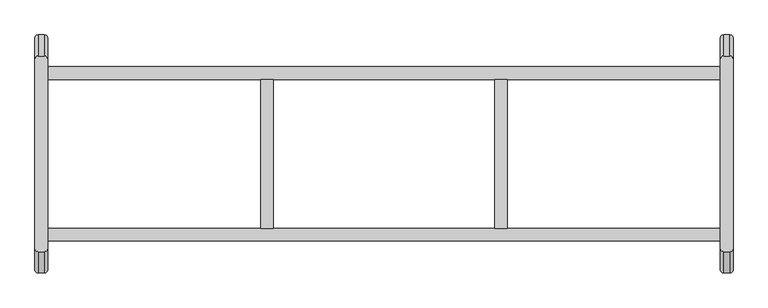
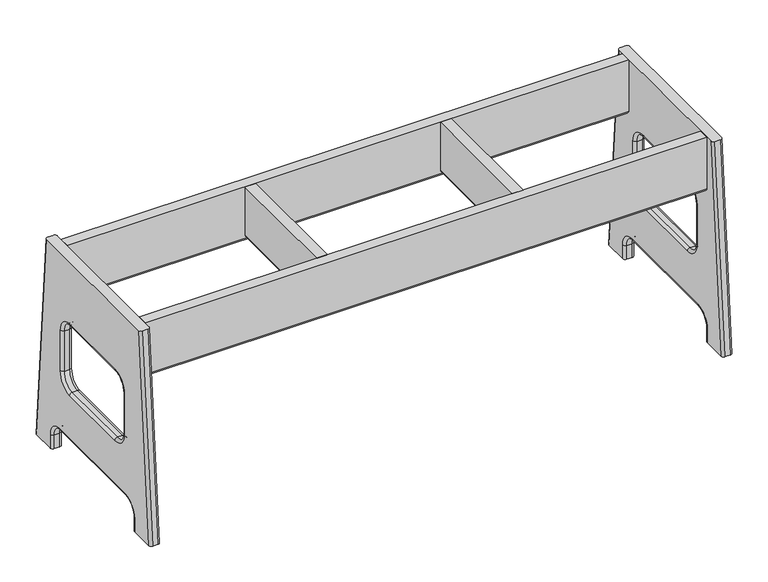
"""IFC4 building model written with IfcOpenShell, lengths in millimetres: furniture geometry, SSL-Childcraft_Outdoor-Bench : 2161359."""

from ifc_helpers import new_model, si_unit, point, frame, frame_2d, origin, place, context, project, spatial, polyline, circle_curve, ellipse_curve, trimmed, segment, composite_curve, outline, extrude, source, transform, mapped, element, save
from ifc_brep_helpers import plane_surface, cylinder_surface, revolved_surface, extruded_surface, advanced_brep


def furniture_ed4c9207(model_context):
    return source(origin(), model_context, "Body", "SolidModel", [
        advanced_brep(
        [(12.7652904, -293.6836882, 387.35), (17.5277904, -298.4461882, 387.35), (27.0527904, -298.4461882, 387.35), (31.8152904, -293.6836882, 387.35), (31.8152904, -11.1163118, 387.35), (27.0527904, -6.3538118, 387.35), (17.5277904, -6.3538118, 387.35), (12.7652904, -11.1163118, 387.35), (12.7652904, -325.4375, 0.0), (12.7652904, 20.6375, 0.0), (12.7652904, -21.4179199, 0.0), (12.7652904, -21.4179199, 25.4), (12.7652904, -50.7866699, 54.76875), (12.7652904, -254.0006417, 54.76875), (12.7652904, -283.3820917, 25.3873), (12.7652904, -283.3820917, 0.0), (12.7652904, -222.25, 270.6686466), (12.7652904, -251.61875, 241.2998966), (12.7652904, -251.61875, 165.0998966), (12.7652904, -222.25, 135.7311466), (12.7652904, -82.55, 135.7311466), (12.7652904, -53.18125, 165.0998966), (12.7652904, -53.18125, 241.2998966), (12.7652904, -82.55, 270.6686466), (17.5277904, -330.2, 0.0), (27.0527904, -330.2, 0.0), (31.8152904, -325.4375, 0.0), (27.0527904, -246.85625, 241.2998966), (27.0527904, -222.25, 265.9061466), (31.8152904, -222.25, 270.6686466), (31.8152904, -251.61875, 241.2998966), (17.5277904, -246.85625, 241.2998966), (17.5277904, -222.25, 265.9061466), (31.8152904, -251.61875, 165.0998966), (27.0527904, -246.85625, 165.0998966), (17.5277904, -246.85625, 165.0998966), (31.8152904, -222.25, 135.7311466), (27.0527904, -222.25, 140.4936466), (17.5277904, -222.25, 140.4936466), (31.8152904, -82.55, 135.7311466), (27.0527904, -82.55, 140.4936466), (17.5277904, -82.55, 140.4936466), (31.8152904, -53.18125, 165.0998966), (27.0527904, -57.94375, 165.0998966), (17.5277904, -57.94375, 165.0998966), (31.8152904, -53.18125, 241.2998966), (27.0527904, -57.94375, 241.2998966), (17.5277904, -57.94375, 241.2998966), (31.8152904, -82.55, 270.6686466), (27.0527904, -82.55, 265.9061466), (17.5277904, -82.55, 265.9061466), (27.0527904, -26.1804199, 0.0), (31.8152904, -21.4179199, 0.0), (31.8152904, -21.4179199, 25.4), (27.0527904, -26.1804199, 25.4), (17.5277904, -26.1804199, 0.0), (17.5277904, -26.1804199, 25.4), (31.8152904, -50.7866699, 54.76875), (27.0527904, -50.7866699, 50.00625), (17.5277904, -50.7866699, 50.00625), (31.8152904, -254.0006417, 54.76875), (27.0527904, -254.0006417, 50.00625), (17.5277904, -254.0006417, 50.00625), (31.8152904, -283.3820917, 25.3873), (27.0527904, -278.6195917, 25.3873), (17.5277904, -278.6195917, 25.3873), (31.8152904, -283.3820917, 0.0), (27.0527904, -278.6195917, 0.0), (17.5277904, -278.6195917, 0.0), (17.5277904, 25.4, 0.0), (27.0527904, 25.4, 0.0), (31.8152904, 20.6375, 0.0)],
        [
            (0, 1, circle_curve(frame((17.5277904, -293.6836882, 387.35), z_axis=(0.0, 0.0, 1.0), x_axis=(1.0, 0.0, 0.0)), 4.7625)),
            (1, 2),
            (2, 3, circle_curve(frame((27.0527904, -293.6836882, 387.35), z_axis=(0.0, 0.0, 1.0), x_axis=(1.0, 0.0, 0.0)), 4.7625)),
            (3, 4),
            (4, 5, circle_curve(frame((27.0527904, -11.1163118, 387.35), z_axis=(0.0, 0.0, 1.0), x_axis=(1.0, 0.0, 0.0)), 4.7625)),
            (5, 6),
            (6, 7, circle_curve(frame((17.5277904, -11.1163118, 387.35), z_axis=(0.0, 0.0, 1.0), x_axis=(1.0, 0.0, 0.0)), 4.7625)),
            (7, 0),
            (8, 0),
            (7, 9),
            (9, 10),
            (10, 11),
            (11, 12, circle_curve(frame((12.7652904, -50.7866699, 25.4), z_axis=(1.0, 0.0, 0.0), x_axis=(0.0, 1.0, 0.0)), 29.36875)),
            (12, 13),
            (13, 14, circle_curve(frame((12.7652904, -254.0006417, 25.3873), z_axis=(1.0, 0.0, 0.0), x_axis=(0.0, 0.0, 1.0)), 29.38145)),
            (14, 15),
            (15, 8),
            (16, 17, circle_curve(frame((12.7652904, -222.25, 241.2998966), z_axis=(1.0, 0.0, 0.0), x_axis=(0.0, 0.0, 1.0)), 29.36875)),
            (17, 18),
            (18, 19, circle_curve(frame((12.7652904, -222.25, 165.0998966), z_axis=(1.0, 0.0, 0.0), x_axis=(0.0, -1.0, 0.0)), 29.36875)),
            (19, 20),
            (20, 21, circle_curve(frame((12.7652904, -82.55, 165.0998966), z_axis=(1.0, 0.0, 0.0), x_axis=(0.0, 0.0, -1.0)), 29.36875)),
            (21, 22),
            (22, 23, circle_curve(frame((12.7652904, -82.55, 241.2998966), z_axis=(1.0, 0.0, 0.0), x_axis=(0.0, 1.0, 0.0)), 29.36875)),
            (23, 16),
            (8, 24, circle_curve(frame((17.5277904, -325.4375, 0.0), z_axis=(0.0, 0.0, 1.0), x_axis=(1.0, 0.0, 0.0)), 4.7625)),
            (24, 1),
            (24, 25),
            (25, 2),
            (25, 26, circle_curve(frame((27.0527904, -325.4375, 0.0), z_axis=(0.0, 0.0, 1.0), x_axis=(1.0, 0.0, 0.0)), 4.7625)),
            (26, 3),
            (27, 28, circle_curve(frame((27.0527904, -222.25, 241.2998966), z_axis=(-1.0, 0.0, 0.0), x_axis=(0.0, 0.0, 1.0)), 24.60625)),
            (28, 29, circle_curve(frame((27.0527904, -222.25, 270.6686466), z_axis=(0.0, -1.0, 0.0), x_axis=(0.0, 0.0, -1.0)), 4.7625)),
            (29, 30, circle_curve(frame((31.8152904, -222.25, 241.2998966), z_axis=(1.0, 0.0, 0.0), x_axis=(0.0, 0.0, 1.0)), 29.36875)),
            (30, 27, circle_curve(frame((27.0527904, -251.61875, 241.2998966), z_axis=(0.0, 0.0, 1.0), x_axis=(0.0, 1.0, 0.0)), 4.7625)),
            (27, 31),
            (31, 32, circle_curve(frame((17.5277904, -222.25, 241.2998966), z_axis=(-1.0, 0.0, 0.0), x_axis=(0.0, 0.0, 1.0)), 24.60625)),
            (32, 28),
            (31, 17, circle_curve(frame((17.5277904, -251.61875, 241.2998966), z_axis=(0.0, 0.0, 1.0), x_axis=(0.0, 1.0, 0.0)), 4.7625)),
            (16, 32, circle_curve(frame((17.5277904, -222.25, 270.6686466), z_axis=(0.0, -1.0, 0.0), x_axis=(0.0, 0.0, -1.0)), 4.7625)),
            (30, 33),
            (33, 34, circle_curve(frame((27.0527904, -251.61875, 165.0998966), z_axis=(0.0, 0.0, 1.0), x_axis=(0.0, 1.0, 0.0)), 4.7625)),
            (34, 27),
            (34, 35),
            (35, 31),
            (35, 18, circle_curve(frame((17.5277904, -251.61875, 165.0998966), z_axis=(0.0, 0.0, 1.0), x_axis=(0.0, 1.0, 0.0)), 4.7625)),
            (33, 36, circle_curve(frame((31.8152904, -222.25, 165.0998966), z_axis=(1.0, 0.0, 0.0), x_axis=(0.0, -1.0, 0.0)), 29.36875)),
            (36, 37, circle_curve(frame((27.0527904, -222.25, 135.7311466), z_axis=(0.0, -1.0, 0.0), x_axis=(0.0, 0.0, 1.0)), 4.7625)),
            (37, 34, circle_curve(frame((27.0527904, -222.25, 165.0998966), z_axis=(-1.0, 0.0, 0.0), x_axis=(0.0, -1.0, 0.0)), 24.60625)),
            (37, 38),
            (38, 35, circle_curve(frame((17.5277904, -222.25, 165.0998966), z_axis=(-1.0, 0.0, 0.0), x_axis=(0.0, -1.0, 0.0)), 24.60625)),
            (38, 19, circle_curve(frame((17.5277904, -222.25, 135.7311466), z_axis=(0.0, -1.0, 0.0), x_axis=(0.0, 0.0, 1.0)), 4.7625)),
            (36, 39),
            (39, 40, circle_curve(frame((27.0527904, -82.55, 135.7311466), z_axis=(0.0, -1.0, 0.0), x_axis=(0.0, 0.0, 1.0)), 4.7625)),
            (40, 37),
            (40, 41),
            (41, 38),
            (41, 20, circle_curve(frame((17.5277904, -82.55, 135.7311466), z_axis=(0.0, -1.0, 0.0), x_axis=(0.0, 0.0, 1.0)), 4.7625)),
            (39, 42, circle_curve(frame((31.8152904, -82.55, 165.0998966), z_axis=(1.0, 0.0, 0.0), x_axis=(0.0, 0.0, -1.0)), 29.36875)),
            (42, 43, circle_curve(frame((27.0527904, -53.18125, 165.0998966), z_axis=(0.0, 0.0, -1.0), x_axis=(0.0, -1.0, 0.0)), 4.7625)),
            (43, 40, circle_curve(frame((27.0527904, -82.55, 165.0998966), z_axis=(-1.0, 0.0, 0.0), x_axis=(0.0, 0.0, -1.0)), 24.60625)),
            (43, 44),
            (44, 41, circle_curve(frame((17.5277904, -82.55, 165.0998966), z_axis=(-1.0, 0.0, 0.0), x_axis=(0.0, 0.0, -1.0)), 24.60625)),
            (44, 21, circle_curve(frame((17.5277904, -53.18125, 165.0998966), z_axis=(0.0, 0.0, -1.0), x_axis=(0.0, -1.0, 0.0)), 4.7625)),
            (42, 45),
            (45, 46, circle_curve(frame((27.0527904, -53.18125, 241.2998966), z_axis=(0.0, 0.0, -1.0), x_axis=(0.0, -1.0, 0.0)), 4.7625)),
            (46, 43),
            (46, 47),
            (47, 44),
            (47, 22, circle_curve(frame((17.5277904, -53.18125, 241.2998966), z_axis=(0.0, 0.0, -1.0), x_axis=(0.0, -1.0, 0.0)), 4.7625)),
            (45, 48, circle_curve(frame((31.8152904, -82.55, 241.2998966), z_axis=(1.0, 0.0, 0.0), x_axis=(0.0, 1.0, 0.0)), 29.36875)),
            (48, 49, circle_curve(frame((27.0527904, -82.55, 270.6686466), z_axis=(0.0, 1.0, 0.0), x_axis=(0.0, 0.0, -1.0)), 4.7625)),
            (49, 46, circle_curve(frame((27.0527904, -82.55, 241.2998966), z_axis=(-1.0, 0.0, 0.0), x_axis=(0.0, 1.0, 0.0)), 24.60625)),
            (49, 50),
            (50, 47, circle_curve(frame((17.5277904, -82.55, 241.2998966), z_axis=(-1.0, 0.0, 0.0), x_axis=(0.0, 1.0, 0.0)), 24.60625)),
            (50, 23, circle_curve(frame((17.5277904, -82.55, 270.6686466), z_axis=(0.0, 1.0, 0.0), x_axis=(0.0, 0.0, -1.0)), 4.7625)),
            (28, 49),
            (48, 29),
            (32, 50),
            (51, 52, circle_curve(frame((27.0527904, -21.4179199, 0.0), z_axis=(0.0, 0.0, 1.0), x_axis=(0.0, -1.0, 0.0)), 4.7625)),
            (52, 53),
            (53, 54, circle_curve(frame((27.0527904, -21.4179199, 25.4), z_axis=(0.0, 0.0, -1.0), x_axis=(0.0, -1.0, 0.0)), 4.7625)),
            (54, 51),
            (55, 51),
            (54, 56),
            (56, 55),
            (10, 55, circle_curve(frame((17.5277904, -21.4179199, 0.0), z_axis=(0.0, 0.0, 1.0), x_axis=(0.0, -1.0, 0.0)), 4.7625)),
            (56, 11, circle_curve(frame((17.5277904, -21.4179199, 25.4), z_axis=(0.0, 0.0, -1.0), x_axis=(0.0, -1.0, 0.0)), 4.7625)),
            (53, 57, circle_curve(frame((31.8152904, -50.7866699, 25.4), z_axis=(1.0, 0.0, 0.0), x_axis=(0.0, 1.0, 0.0)), 29.36875)),
            (57, 58, circle_curve(frame((27.0527904, -50.7866699, 54.76875), z_axis=(0.0, 1.0, 0.0), x_axis=(0.0, 0.0, -1.0)), 4.7625)),
            (58, 54, circle_curve(frame((27.0527904, -50.7866699, 25.4), z_axis=(-1.0, 0.0, 0.0), x_axis=(0.0, 1.0, 0.0)), 24.60625)),
            (58, 59),
            (59, 56, circle_curve(frame((17.5277904, -50.7866699, 25.4), z_axis=(-1.0, 0.0, 0.0), x_axis=(0.0, 1.0, 0.0)), 24.60625)),
            (59, 12, circle_curve(frame((17.5277904, -50.7866699, 54.76875), z_axis=(0.0, 1.0, 0.0), x_axis=(0.0, 0.0, -1.0)), 4.7625)),
            (57, 60),
            (60, 61, circle_curve(frame((27.0527904, -254.0006417, 54.76875), z_axis=(0.0, 1.0, 0.0), x_axis=(0.0, 0.0, -1.0)), 4.7625)),
            (61, 58),
            (61, 62),
            (62, 59),
            (62, 13, circle_curve(frame((17.5277904, -254.0006417, 54.76875), z_axis=(0.0, 1.0, 0.0), x_axis=(0.0, 0.0, -1.0)), 4.7625)),
            (60, 63, circle_curve(frame((31.8152904, -254.0006417, 25.3873), z_axis=(1.0, 0.0, 0.0), x_axis=(0.0, 0.0, 1.0)), 29.38145)),
            (63, 64, circle_curve(frame((27.0527904, -283.3820917, 25.3873), z_axis=(0.0, 0.0, 1.0), x_axis=(0.0, 1.0, 0.0)), 4.7625)),
            (64, 61, circle_curve(frame((27.0527904, -254.0006417, 25.3873), z_axis=(-1.0, 0.0, 0.0), x_axis=(0.0, 0.0, 1.0)), 24.61895)),
            (64, 65),
            (65, 62, circle_curve(frame((17.5277904, -254.0006417, 25.3873), z_axis=(-1.0, 0.0, 0.0), x_axis=(0.0, 0.0, 1.0)), 24.61895)),
            (65, 14, circle_curve(frame((17.5277904, -283.3820917, 25.3873), z_axis=(0.0, 0.0, 1.0), x_axis=(0.0, 1.0, 0.0)), 4.7625)),
            (63, 66),
            (66, 67, circle_curve(frame((27.0527904, -283.3820917, 0.0), z_axis=(0.0, 0.0, 1.0), x_axis=(0.0, 1.0, 0.0)), 4.7625)),
            (67, 64),
            (67, 68),
            (68, 65),
            (68, 15, circle_curve(frame((17.5277904, -283.3820917, 0.0), z_axis=(0.0, 0.0, 1.0), x_axis=(0.0, 1.0, 0.0)), 4.7625)),
            (66, 26),
            (9, 69, circle_curve(frame((17.5277904, 20.6375, 0.0), z_axis=(0.0, 0.0, -1.0), x_axis=(1.0, 0.0, 0.0)), 4.7625)),
            (69, 70),
            (70, 71, circle_curve(frame((27.0527904, 20.6375, 0.0), z_axis=(0.0, 0.0, -1.0), x_axis=(1.0, 0.0, 0.0)), 4.7625)),
            (71, 52),
            (71, 4),
            (6, 69),
            (5, 70),
        ],
        [
            plane_surface(frame((22.2902904, -295.0066049, 387.35), z_axis=(0.0, 0.0, 1.0), x_axis=(0.0, -1.0, 0.0))),
            plane_surface(frame((12.7652904, -325.040625, 0.0), z_axis=(-1.0, 0.0, 0.0), x_axis=(0.0, -1.0, 0.0))),
            extruded_surface(trimmed(circle_curve(frame((17.5277904, -325.4375, 0.0), z_axis=(0.0, 0.0, 1.0), x_axis=(1.0, 0.0, 0.0)), 4.7625), [point((12.7652904, -325.4375, 0.0))], [point((17.5277904, -330.2, 0.0))], True, "CARTESIAN"), (0.0, 31.753811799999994, 387.35), 388.64936261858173),
            plane_surface(frame((22.2902904, -330.2, 0.0), z_axis=(0.0, -0.9966567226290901, 0.08170298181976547), x_axis=(1.0, 0.0, 0.0))),
            extruded_surface(trimmed(circle_curve(frame((27.0527904, -325.4375, 0.0), z_axis=(0.0, 0.0, 1.0), x_axis=(1.0, 0.0, 0.0)), 4.7625), [point((27.0527904, -330.2, 0.0))], [point((31.8152904, -325.4375, 0.0))], True, "CARTESIAN"), (0.0, 31.753811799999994, 387.35), 388.64936261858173),
            revolved_surface(trimmed(ellipse_curve(frame((27.0527904, -222.25, 270.6686466), z_axis=(0.0, 1.0, 0.0), x_axis=(0.0, 0.0, -1.0)), 4.7625, 4.7625), [point((31.8152904, -222.25, 270.6686466))], [point((27.0527904, -222.25, 265.9061466))], True, "CARTESIAN"), (0.0, -222.25, 241.2998966), (1.0, 0.0, 0.0)),
            revolved_surface(polyline([(27.0527904, -222.25, 265.9061466), (17.5277904, -222.25, 265.9061466)]), (0.0, -222.25, 241.2998966), (1.0, 0.0, 0.0)),
            revolved_surface(trimmed(ellipse_curve(frame((17.5277904, -222.25, 270.6686466), z_axis=(0.0, 1.0, 0.0), x_axis=(0.0, 0.0, -1.0)), 4.7625, 4.7625), [point((17.5277904, -222.25, 265.9061466))], [point((12.7652904, -222.25, 270.6686466))], True, "CARTESIAN"), (0.0, -222.25, 241.2998966), (1.0, 0.0, 0.0)),
            cylinder_surface(frame((27.0527904, -251.61875, 241.2998966), z_axis=(0.0, 0.0, 1.0), x_axis=(0.0, 1.0, 0.0)), 4.7625),
            plane_surface(frame((27.0527904, -246.85625, 241.2998966), z_axis=(0.0, 1.0, 0.0), x_axis=(0.0, 0.0, -1.0))),
            cylinder_surface(frame((17.5277904, -251.61875, 241.2998966), z_axis=(0.0, 0.0, 1.0), x_axis=(0.0, 1.0, 0.0)), 4.7625),
            revolved_surface(trimmed(ellipse_curve(frame((27.0527904, -251.61875, 165.0998966), z_axis=(0.0, 0.0, 1.0), x_axis=(0.0, 1.0, 0.0)), 4.7625, 4.7625), [point((31.8152904, -251.61875, 165.0998966))], [point((27.0527904, -246.85625, 165.0998966))], True, "CARTESIAN"), (0.0, -222.25, 165.0998966), (1.0, 0.0, 0.0)),
            revolved_surface(polyline([(27.0527904, -246.85625, 165.0998966), (17.5277904, -246.85625, 165.0998966)]), (0.0, -222.25, 165.0998966), (1.0, 0.0, 0.0)),
            revolved_surface(trimmed(ellipse_curve(frame((17.5277904, -251.61875, 165.0998966), z_axis=(0.0, 0.0, 1.0), x_axis=(0.0, 1.0, 0.0)), 4.7625, 4.7625), [point((17.5277904, -246.85625, 165.0998966))], [point((12.7652904, -251.61875, 165.0998966))], True, "CARTESIAN"), (0.0, -222.25, 165.0998966), (1.0, 0.0, 0.0)),
            cylinder_surface(frame((27.0527904, -222.25, 135.7311466), z_axis=(0.0, -1.0, 0.0), x_axis=(0.0, 0.0, 1.0)), 4.7625),
            plane_surface(frame((27.0527904, -222.25, 140.4936466), z_axis=(0.0, 0.0, 1.0), x_axis=(0.0, 1.0, 0.0))),
            cylinder_surface(frame((17.5277904, -222.25, 135.7311466), z_axis=(0.0, -1.0, 0.0), x_axis=(0.0, 0.0, 1.0)), 4.7625),
            revolved_surface(trimmed(ellipse_curve(frame((27.0527904, -82.55, 135.7311466), z_axis=(0.0, -1.0, 0.0), x_axis=(0.0, 0.0, 1.0)), 4.7625, 4.7625), [point((31.8152904, -82.55, 135.7311466))], [point((27.0527904, -82.55, 140.4936466))], True, "CARTESIAN"), (0.0, -82.55, 165.0998966), (1.0, 0.0, 0.0)),
            revolved_surface(polyline([(27.0527904, -82.55, 140.4936466), (17.5277904, -82.55, 140.4936466)]), (0.0, -82.55, 165.0998966), (1.0, 0.0, 0.0)),
            revolved_surface(trimmed(ellipse_curve(frame((17.5277904, -82.55, 135.7311466), z_axis=(0.0, -1.0, 0.0), x_axis=(0.0, 0.0, 1.0)), 4.7625, 4.7625), [point((17.5277904, -82.55, 140.4936466))], [point((12.7652904, -82.55, 135.7311466))], True, "CARTESIAN"), (0.0, -82.55, 165.0998966), (1.0, 0.0, 0.0)),
            cylinder_surface(frame((27.0527904, -53.18125, 165.0998966), z_axis=(0.0, 0.0, -1.0), x_axis=(0.0, -1.0, 0.0)), 4.7625),
            plane_surface(frame((27.0527904, -57.94375, 165.0998966), z_axis=(0.0, -1.0, 0.0), x_axis=(0.0, 0.0, 1.0))),
            cylinder_surface(frame((17.5277904, -53.18125, 165.0998966), z_axis=(0.0, 0.0, -1.0), x_axis=(0.0, -1.0, 0.0)), 4.7625),
            revolved_surface(trimmed(ellipse_curve(frame((27.0527904, -53.18125, 241.2998966), z_axis=(0.0, 0.0, -1.0), x_axis=(0.0, -1.0, 0.0)), 4.7625, 4.7625), [point((31.8152904, -53.18125, 241.2998966))], [point((27.0527904, -57.94375, 241.2998966))], True, "CARTESIAN"), (0.0, -82.55, 241.2998966), (1.0, 0.0, 0.0)),
            revolved_surface(polyline([(27.0527904, -57.943749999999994, 241.2998966), (17.5277904, -57.943749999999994, 241.2998966)]), (0.0, -82.55, 241.2998966), (1.0, 0.0, 0.0)),
            revolved_surface(trimmed(ellipse_curve(frame((17.5277904, -53.18125, 241.2998966), z_axis=(0.0, 0.0, -1.0), x_axis=(0.0, -1.0, 0.0)), 4.7625, 4.7625), [point((17.5277904, -57.94375, 241.2998966))], [point((12.7652904, -53.18125, 241.2998966))], True, "CARTESIAN"), (0.0, -82.55, 241.2998966), (1.0, 0.0, 0.0)),
            cylinder_surface(frame((27.0527904, -82.55, 270.6686466), z_axis=(0.0, 1.0, 0.0), x_axis=(0.0, 0.0, -1.0)), 4.7625),
            plane_surface(frame((27.0527904, -82.55, 265.9061466), z_axis=(0.0, 0.0, -1.0), x_axis=(0.0, -1.0, 0.0))),
            cylinder_surface(frame((17.5277904, -82.55, 270.6686466), z_axis=(0.0, 1.0, 0.0), x_axis=(0.0, 0.0, -1.0)), 4.7625),
            cylinder_surface(frame((27.0527904, -21.4179199, 0.0), z_axis=(0.0, 0.0, -1.0), x_axis=(0.0, -1.0, 0.0)), 4.7625),
            plane_surface(frame((27.0527904, -26.1804199, 0.0), z_axis=(0.0, -1.0, 0.0), x_axis=(0.0, 0.0, 1.0))),
            cylinder_surface(frame((17.5277904, -21.4179199, 0.0), z_axis=(0.0, 0.0, -1.0), x_axis=(0.0, -1.0, 0.0)), 4.7625),
            revolved_surface(trimmed(ellipse_curve(frame((27.0527904, -21.4179199, 25.4), z_axis=(0.0, 0.0, -1.0), x_axis=(0.0, -1.0, 0.0)), 4.7625, 4.7625), [point((31.8152904, -21.4179199, 25.4))], [point((27.0527904, -26.1804199, 25.4))], True, "CARTESIAN"), (0.0, -50.7866699, 25.4), (1.0, 0.0, 0.0)),
            revolved_surface(polyline([(27.0527904, -26.1804199, 25.4), (17.5277904, -26.1804199, 25.4)]), (0.0, -50.7866699, 25.4), (1.0, 0.0, 0.0)),
            revolved_surface(trimmed(ellipse_curve(frame((17.5277904, -21.4179199, 25.4), z_axis=(0.0, 0.0, -1.0), x_axis=(0.0, -1.0, 0.0)), 4.7625, 4.7625), [point((17.5277904, -26.1804199, 25.4))], [point((12.7652904, -21.4179199, 25.4))], True, "CARTESIAN"), (0.0, -50.7866699, 25.4), (1.0, 0.0, 0.0)),
            cylinder_surface(frame((27.0527904, -50.7866699, 54.76875), z_axis=(0.0, 1.0, 0.0), x_axis=(0.0, 0.0, -1.0)), 4.7625),
            plane_surface(frame((27.0527904, -50.7866699, 50.00625), z_axis=(0.0, 0.0, -1.0), x_axis=(0.0, -1.0, 0.0))),
            cylinder_surface(frame((17.5277904, -50.7866699, 54.76875), z_axis=(0.0, 1.0, 0.0), x_axis=(0.0, 0.0, -1.0)), 4.7625),
            revolved_surface(trimmed(ellipse_curve(frame((27.0527904, -254.0006417, 54.76875), z_axis=(0.0, 1.0, 0.0), x_axis=(0.0, 0.0, -1.0)), 4.7625, 4.7625), [point((31.8152904, -254.0006417, 54.76875))], [point((27.0527904, -254.0006417, 50.00625))], True, "CARTESIAN"), (0.0, -254.0006417, 25.3873), (1.0, 0.0, 0.0)),
            revolved_surface(polyline([(27.0527904, -254.0006417, 50.00625), (17.5277904, -254.0006417, 50.00625)]), (0.0, -254.0006417, 25.3873), (1.0, 0.0, 0.0)),
            revolved_surface(trimmed(ellipse_curve(frame((17.5277904, -254.0006417, 54.76875), z_axis=(0.0, 1.0, 0.0), x_axis=(0.0, 0.0, -1.0)), 4.7625, 4.7625), [point((17.5277904, -254.0006417, 50.00625))], [point((12.7652904, -254.0006417, 54.76875))], True, "CARTESIAN"), (0.0, -254.0006417, 25.3873), (1.0, 0.0, 0.0)),
            cylinder_surface(frame((27.0527904, -283.3820917, 25.3873), z_axis=(0.0, 0.0, 1.0), x_axis=(0.0, 1.0, 0.0)), 4.7625),
            plane_surface(frame((27.0527904, -278.6195917, 25.3873), z_axis=(0.0, 1.0, 0.0), x_axis=(0.0, 0.0, -1.0))),
            cylinder_surface(frame((17.5277904, -283.3820917, 25.3873), z_axis=(0.0, 0.0, 1.0), x_axis=(0.0, 1.0, 0.0)), 4.7625),
            plane_surface(frame((1044.5097096, -326.7604167, 0.0), z_axis=(0.0, 0.0, -1.0), x_axis=(-1.0, 0.0, 0.0))),
            plane_surface(frame((1054.0347096, -20.6241699, 0.0), z_axis=(0.0, 0.0, -1.0), x_axis=(-1.0, 0.0, 0.0))),
            plane_surface(frame((31.8152904, -325.040625, 0.0), z_axis=(1.0, 0.0, 0.0), x_axis=(0.0, 1.0, 0.0))),
            extruded_surface(trimmed(circle_curve(frame((17.5277904, 20.6375, 0.0), z_axis=(0.0, 0.0, 1.0), x_axis=(1.0, 0.0, 0.0)), 4.7625), [point((17.5277904, 25.4, 0.0))], [point((12.7652904, 20.6375, 0.0))], True, "CARTESIAN"), (0.0, -31.7538118, 387.35), 388.64936261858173),
            plane_surface(frame((22.2902904, 25.4, 0.0), z_axis=(0.0, 0.9966567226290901, 0.08170298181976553), x_axis=(-1.0, 0.0, 0.0))),
            extruded_surface(trimmed(circle_curve(frame((27.0527904, 20.6375, 0.0), z_axis=(0.0, 0.0, 1.0), x_axis=(1.0, 0.0, 0.0)), 4.7625), [point((31.8152904, 20.6375, 0.0))], [point((27.0527904, 25.4, 0.0))], True, "CARTESIAN"), (0.0, -31.7538118, 387.35), 388.64936261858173),
        ],
        [
            (0, [[1, 2, 3, 4, 5, 6, 7, 8]]),
            (1, [[9, -8, 10, 11, 12, 13, 14, 15, 16, 17], [18, 19, 20, 21, 22, 23, 24, 25]]),
            (2, [[-1, -9, 26, 27]]),
            (3, [[-2, -27, 28, 29]]),
            (4, [[-3, -29, 30, 31]]),
            (5, [[32, 33, 34, 35]]),
            (6, [[-32, 36, 37, 38]]),
            (7, [[-37, 39, -18, 40]]),
            (8, [[-35, 41, 42, 43]]),
            (9, [[-36, -43, 44, 45]]),
            (10, [[-39, -45, 46, -19]]),
            (11, [[-42, 47, 48, 49]]),
            (12, [[-44, -49, 50, 51]]),
            (13, [[-46, -51, 52, -20]]),
            (14, [[-48, 53, 54, 55]]),
            (15, [[-50, -55, 56, 57]]),
            (16, [[-52, -57, 58, -21]]),
            (17, [[-54, 59, 60, 61]]),
            (18, [[-56, -61, 62, 63]]),
            (19, [[-58, -63, 64, -22]]),
            (20, [[-60, 65, 66, 67]]),
            (21, [[-62, -67, 68, 69]]),
            (22, [[-64, -69, 70, -23]]),
            (23, [[-66, 71, 72, 73]]),
            (24, [[-68, -73, 74, 75]]),
            (25, [[-70, -75, 76, -24]]),
            (26, [[-33, 77, -72, 78]]),
            (27, [[-38, 79, -74, -77]]),
            (28, [[-40, -25, -76, -79]]),
            (29, [[80, 81, 82, 83]]),
            (30, [[84, -83, 85, 86]]),
            (31, [[87, -86, 88, -12]]),
            (32, [[89, 90, 91, -82]]),
            (33, [[-85, -91, 92, 93]]),
            (34, [[-88, -93, 94, -13]]),
            (35, [[95, 96, 97, -90]]),
            (36, [[-92, -97, 98, 99]]),
            (37, [[-14, -94, -99, 100]]),
            (38, [[101, 102, 103, -96]]),
            (39, [[-98, -103, 104, 105]]),
            (40, [[-15, -100, -105, 106]]),
            (41, [[107, 108, 109, -102]]),
            (42, [[-104, -109, 110, 111]]),
            (43, [[-16, -106, -111, 112]]),
            (44, [[-30, -28, -26, -17, -112, -110, -108, 113]]),
            (45, [[-80, -84, -87, -11, 114, 115, 116, 117]]),
            (46, [[-31, -113, -107, -101, -95, -89, -81, -117, 118, -4], [-34, -78, -71, -65, -59, -53, -47, -41]]),
            (47, [[-7, 119, -114, -10]]),
            (48, [[-6, 120, -115, -119]]),
            (49, [[-5, -118, -116, -120]]),
        ],
    ),
        advanced_brep(
        [(1039.7472096, -246.85625, 241.2998966), (1039.7472096, -222.25, 265.9061466), (1049.2722096, -222.25, 265.9061466), (1049.2722096, -246.85625, 241.2998966), (1034.9847096, -251.61875, 241.2998966), (1034.9847096, -222.25, 270.6686466), (1054.0347096, -222.25, 270.6686466), (1054.0347096, -251.61875, 241.2998966), (1049.2722096, -246.85625, 165.0998966), (1039.7472096, -246.85625, 165.0998966), (1034.9847096, -251.61875, 165.0998966), (1054.0347096, -251.61875, 165.0998966), (1049.2722096, -222.25, 140.4936466), (1039.7472096, -222.25, 140.4936466), (1034.9847096, -222.25, 135.7311466), (1054.0347096, -222.25, 135.7311466), (1049.2722096, -82.55, 140.4936466), (1039.7472096, -82.55, 140.4936466), (1034.9847096, -82.55, 135.7311466), (1054.0347096, -82.55, 135.7311466), (1049.2722096, -57.94375, 165.0998966), (1039.7472096, -57.94375, 165.0998966), (1034.9847096, -53.18125, 165.0998966), (1054.0347096, -53.18125, 165.0998966), (1049.2722096, -57.94375, 241.2998966), (1039.7472096, -57.94375, 241.2998966), (1034.9847096, -53.18125, 241.2998966), (1054.0347096, -53.18125, 241.2998966), (1049.2722096, -82.55, 265.9061466), (1039.7472096, -82.55, 265.9061466), (1034.9847096, -82.55, 270.6686466), (1054.0347096, -82.55, 270.6686466), (1049.2722096, -26.1804199, 0.0), (1054.0347096, -21.4179199, 0.0), (1054.0347096, -21.4179199, 25.4), (1049.2722096, -26.1804199, 25.4), (1039.7472096, -26.1804199, 0.0), (1039.7472096, -26.1804199, 25.4), (1034.9847096, -21.4179199, 0.0), (1034.9847096, -21.4179199, 25.4), (1054.0347096, -50.7866699, 54.76875), (1049.2722096, -50.7866699, 50.00625), (1039.7472096, -50.7866699, 50.00625), (1034.9847096, -50.7866699, 54.76875), (1054.0347096, -254.0006417, 54.76875), (1049.2722096, -254.0006417, 50.00625), (1039.7472096, -254.0006417, 50.00625), (1034.9847096, -254.0006417, 54.76875), (1054.0347096, -283.3820917, 25.3873), (1049.2722096, -278.6195917, 25.3873), (1039.7472096, -278.6195917, 25.3873), (1034.9847096, -283.3820917, 25.3873), (1054.0347096, -283.3820917, 0.0), (1049.2722096, -278.6195917, 0.0), (1039.7472096, -278.6195917, 0.0), (1034.9847096, -283.3820917, 0.0), (1034.9847096, -293.6836882, 387.35), (1039.7472096, -298.4461882, 387.35), (1049.2722096, -298.4461882, 387.35), (1054.0347096, -293.6836882, 387.35), (1054.0347096, -11.1163118, 387.35), (1049.2722096, -6.3538118, 387.35), (1039.7472096, -6.3538118, 387.35), (1034.9847096, -11.1163118, 387.35), (1054.0347096, -325.4375, 0.0), (1049.2722096, -330.2, 0.0), (1039.7472096, -330.2, 0.0), (1034.9847096, -325.4375, 0.0), (1054.0347096, 20.6375, 0.0), (1034.9847096, 20.6375, 0.0), (1039.7472096, 25.4, 0.0), (1049.2722096, 25.4, 0.0)],
        [
            (0, 1, circle_curve(frame((1039.7472096, -222.25, 241.2998966), z_axis=(-1.0, 0.0, 0.0), x_axis=(0.0, 0.0, 1.0)), 24.60625)),
            (1, 2),
            (2, 3, circle_curve(frame((1049.2722096, -222.25, 241.2998966), z_axis=(1.0, 0.0, 0.0), x_axis=(0.0, 0.0, 1.0)), 24.60625)),
            (3, 0),
            (0, 4, circle_curve(frame((1039.7472096, -251.61875, 241.2998966), z_axis=(0.0, 0.0, 1.0), x_axis=(0.0, 1.0, 0.0)), 4.7625)),
            (4, 5, circle_curve(frame((1034.9847096, -222.25, 241.2998966), z_axis=(-1.0, 0.0, 0.0), x_axis=(0.0, 0.0, 1.0)), 29.36875)),
            (5, 1, circle_curve(frame((1039.7472096, -222.25, 270.6686466), z_axis=(0.0, -1.0, 0.0), x_axis=(0.0, 0.0, -1.0)), 4.7625)),
            (2, 6, circle_curve(frame((1049.2722096, -222.25, 270.6686466), z_axis=(0.0, -1.0, 0.0), x_axis=(0.0, 0.0, -1.0)), 4.7625)),
            (6, 7, circle_curve(frame((1054.0347096, -222.25, 241.2998966), z_axis=(1.0, 0.0, 0.0), x_axis=(0.0, 0.0, 1.0)), 29.36875)),
            (7, 3, circle_curve(frame((1049.2722096, -251.61875, 241.2998966), z_axis=(0.0, 0.0, 1.0), x_axis=(0.0, 1.0, 0.0)), 4.7625)),
            (3, 8),
            (8, 9),
            (9, 0),
            (9, 10, circle_curve(frame((1039.7472096, -251.61875, 165.0998966), z_axis=(0.0, 0.0, 1.0), x_axis=(0.0, 1.0, 0.0)), 4.7625)),
            (10, 4),
            (7, 11),
            (11, 8, circle_curve(frame((1049.2722096, -251.61875, 165.0998966), z_axis=(0.0, 0.0, 1.0), x_axis=(0.0, 1.0, 0.0)), 4.7625)),
            (8, 12, circle_curve(frame((1049.2722096, -222.25, 165.0998966), z_axis=(1.0, 0.0, 0.0), x_axis=(0.0, -1.0, 0.0)), 24.60625)),
            (12, 13),
            (13, 9, circle_curve(frame((1039.7472096, -222.25, 165.0998966), z_axis=(-1.0, 0.0, 0.0), x_axis=(0.0, -1.0, 0.0)), 24.60625)),
            (13, 14, circle_curve(frame((1039.7472096, -222.25, 135.7311466), z_axis=(0.0, -1.0, 0.0), x_axis=(0.0, 0.0, 1.0)), 4.7625)),
            (14, 10, circle_curve(frame((1034.9847096, -222.25, 165.0998966), z_axis=(-1.0, 0.0, 0.0), x_axis=(0.0, -1.0, 0.0)), 29.36875)),
            (11, 15, circle_curve(frame((1054.0347096, -222.25, 165.0998966), z_axis=(1.0, 0.0, 0.0), x_axis=(0.0, -1.0, 0.0)), 29.36875)),
            (15, 12, circle_curve(frame((1049.2722096, -222.25, 135.7311466), z_axis=(0.0, -1.0, 0.0), x_axis=(0.0, 0.0, 1.0)), 4.7625)),
            (12, 16),
            (16, 17),
            (17, 13),
            (17, 18, circle_curve(frame((1039.7472096, -82.55, 135.7311466), z_axis=(0.0, -1.0, 0.0), x_axis=(0.0, 0.0, 1.0)), 4.7625)),
            (18, 14),
            (15, 19),
            (19, 16, circle_curve(frame((1049.2722096, -82.55, 135.7311466), z_axis=(0.0, -1.0, 0.0), x_axis=(0.0, 0.0, 1.0)), 4.7625)),
            (16, 20, circle_curve(frame((1049.2722096, -82.55, 165.0998966), z_axis=(1.0, 0.0, 0.0), x_axis=(0.0, 0.0, -1.0)), 24.60625)),
            (20, 21),
            (21, 17, circle_curve(frame((1039.7472096, -82.55, 165.0998966), z_axis=(-1.0, 0.0, 0.0), x_axis=(0.0, 0.0, -1.0)), 24.60625)),
            (21, 22, circle_curve(frame((1039.7472096, -53.18125, 165.0998966), z_axis=(0.0, 0.0, -1.0), x_axis=(0.0, -1.0, 0.0)), 4.7625)),
            (22, 18, circle_curve(frame((1034.9847096, -82.55, 165.0998966), z_axis=(-1.0, 0.0, 0.0), x_axis=(0.0, 0.0, -1.0)), 29.36875)),
            (19, 23, circle_curve(frame((1054.0347096, -82.55, 165.0998966), z_axis=(1.0, 0.0, 0.0), x_axis=(0.0, 0.0, -1.0)), 29.36875)),
            (23, 20, circle_curve(frame((1049.2722096, -53.18125, 165.0998966), z_axis=(0.0, 0.0, -1.0), x_axis=(0.0, -1.0, 0.0)), 4.7625)),
            (20, 24),
            (24, 25),
            (25, 21),
            (25, 26, circle_curve(frame((1039.7472096, -53.18125, 241.2998966), z_axis=(0.0, 0.0, -1.0), x_axis=(0.0, -1.0, 0.0)), 4.7625)),
            (26, 22),
            (23, 27),
            (27, 24, circle_curve(frame((1049.2722096, -53.18125, 241.2998966), z_axis=(0.0, 0.0, -1.0), x_axis=(0.0, -1.0, 0.0)), 4.7625)),
            (24, 28, circle_curve(frame((1049.2722096, -82.55, 241.2998966), z_axis=(1.0, 0.0, 0.0), x_axis=(0.0, 1.0, 0.0)), 24.60625)),
            (28, 29),
            (29, 25, circle_curve(frame((1039.7472096, -82.55, 241.2998966), z_axis=(-1.0, 0.0, 0.0), x_axis=(0.0, 1.0, 0.0)), 24.60625)),
            (29, 30, circle_curve(frame((1039.7472096, -82.55, 270.6686466), z_axis=(0.0, 1.0, 0.0), x_axis=(0.0, 0.0, -1.0)), 4.7625)),
            (30, 26, circle_curve(frame((1034.9847096, -82.55, 241.2998966), z_axis=(-1.0, 0.0, 0.0), x_axis=(0.0, 1.0, 0.0)), 29.36875)),
            (27, 31, circle_curve(frame((1054.0347096, -82.55, 241.2998966), z_axis=(1.0, 0.0, 0.0), x_axis=(0.0, 1.0, 0.0)), 29.36875)),
            (31, 28, circle_curve(frame((1049.2722096, -82.55, 270.6686466), z_axis=(0.0, 1.0, 0.0), x_axis=(0.0, 0.0, -1.0)), 4.7625)),
            (1, 29),
            (28, 2),
            (5, 30),
            (31, 6),
            (32, 33, circle_curve(frame((1049.2722096, -21.4179199, 0.0), z_axis=(0.0, 0.0, 1.0), x_axis=(0.0, -1.0, 0.0)), 4.7625)),
            (33, 34),
            (34, 35, circle_curve(frame((1049.2722096, -21.4179199, 25.4), z_axis=(0.0, 0.0, -1.0), x_axis=(0.0, -1.0, 0.0)), 4.7625)),
            (35, 32),
            (36, 32),
            (35, 37),
            (37, 36),
            (38, 36, circle_curve(frame((1039.7472096, -21.4179199, 0.0), z_axis=(0.0, 0.0, 1.0), x_axis=(0.0, -1.0, 0.0)), 4.7625)),
            (37, 39, circle_curve(frame((1039.7472096, -21.4179199, 25.4), z_axis=(0.0, 0.0, -1.0), x_axis=(0.0, -1.0, 0.0)), 4.7625)),
            (39, 38),
            (34, 40, circle_curve(frame((1054.0347096, -50.7866699, 25.4), z_axis=(1.0, 0.0, 0.0), x_axis=(0.0, 1.0, 0.0)), 29.36875)),
            (40, 41, circle_curve(frame((1049.2722096, -50.7866699, 54.76875), z_axis=(0.0, 1.0, 0.0), x_axis=(0.0, 0.0, -1.0)), 4.7625)),
            (41, 35, circle_curve(frame((1049.2722096, -50.7866699, 25.4), z_axis=(-1.0, 0.0, 0.0), x_axis=(0.0, 1.0, 0.0)), 24.60625)),
            (41, 42),
            (42, 37, circle_curve(frame((1039.7472096, -50.7866699, 25.4), z_axis=(-1.0, 0.0, 0.0), x_axis=(0.0, 1.0, 0.0)), 24.60625)),
            (42, 43, circle_curve(frame((1039.7472096, -50.7866699, 54.76875), z_axis=(0.0, 1.0, 0.0), x_axis=(0.0, 0.0, -1.0)), 4.7625)),
            (43, 39, circle_curve(frame((1034.9847096, -50.7866699, 25.4), z_axis=(-1.0, 0.0, 0.0), x_axis=(0.0, 1.0, 0.0)), 29.36875)),
            (40, 44),
            (44, 45, circle_curve(frame((1049.2722096, -254.0006417, 54.76875), z_axis=(0.0, 1.0, 0.0), x_axis=(0.0, 0.0, -1.0)), 4.7625)),
            (45, 41),
            (45, 46),
            (46, 42),
            (47, 43),
            (46, 47, circle_curve(frame((1039.7472096, -254.0006417, 54.76875), z_axis=(0.0, 1.0, 0.0), x_axis=(0.0, 0.0, -1.0)), 4.7625)),
            (44, 48, circle_curve(frame((1054.0347096, -254.0006417, 25.3873), z_axis=(1.0, 0.0, 0.0), x_axis=(0.0, 0.0, 1.0)), 29.38145)),
            (48, 49, circle_curve(frame((1049.2722096, -283.3820917, 25.3873), z_axis=(0.0, 0.0, 1.0), x_axis=(0.0, 1.0, 0.0)), 4.7625)),
            (49, 45, circle_curve(frame((1049.2722096, -254.0006417, 25.3873), z_axis=(-1.0, 0.0, 0.0), x_axis=(0.0, 0.0, 1.0)), 24.61895)),
            (49, 50),
            (50, 46, circle_curve(frame((1039.7472096, -254.0006417, 25.3873), z_axis=(-1.0, 0.0, 0.0), x_axis=(0.0, 0.0, 1.0)), 24.61895)),
            (51, 47, circle_curve(frame((1034.9847096, -254.0006417, 25.3873), z_axis=(-1.0, 0.0, 0.0), x_axis=(0.0, 0.0, 1.0)), 29.38145)),
            (50, 51, circle_curve(frame((1039.7472096, -283.3820917, 25.3873), z_axis=(0.0, 0.0, 1.0), x_axis=(0.0, 1.0, 0.0)), 4.7625)),
            (48, 52),
            (52, 53, circle_curve(frame((1049.2722096, -283.3820917, 0.0), z_axis=(0.0, 0.0, 1.0), x_axis=(0.0, 1.0, 0.0)), 4.7625)),
            (53, 49),
            (53, 54),
            (54, 50),
            (55, 51),
            (54, 55, circle_curve(frame((1039.7472096, -283.3820917, 0.0), z_axis=(0.0, 0.0, 1.0), x_axis=(0.0, 1.0, 0.0)), 4.7625)),
            (56, 57, circle_curve(frame((1039.7472096, -293.6836882, 387.35), z_axis=(0.0, 0.0, 1.0), x_axis=(-1.0, 0.0, 0.0)), 4.7625)),
            (57, 58),
            (58, 59, circle_curve(frame((1049.2722096, -293.6836882, 387.35), z_axis=(0.0, 0.0, 1.0), x_axis=(-1.0, 0.0, 0.0)), 4.7625)),
            (59, 60),
            (60, 61, circle_curve(frame((1049.2722096, -11.1163118, 387.35), z_axis=(0.0, 0.0, 1.0), x_axis=(-1.0, 0.0, 0.0)), 4.7625)),
            (61, 62),
            (62, 63, circle_curve(frame((1039.7472096, -11.1163118, 387.35), z_axis=(0.0, 0.0, 1.0), x_axis=(-1.0, 0.0, 0.0)), 4.7625)),
            (63, 56),
            (64, 65, circle_curve(frame((1049.2722096, -325.4375, 0.0), z_axis=(0.0, 0.0, -1.0), x_axis=(-1.0, 0.0, 0.0)), 4.7625)),
            (65, 66),
            (66, 67, circle_curve(frame((1039.7472096, -325.4375, 0.0), z_axis=(0.0, 0.0, -1.0), x_axis=(-1.0, 0.0, 0.0)), 4.7625)),
            (67, 55),
            (52, 64),
            (59, 64),
            (33, 68),
            (68, 60),
            (57, 66),
            (65, 58),
            (67, 56),
            (63, 69),
            (69, 38),
            (69, 70, circle_curve(frame((1039.7472096, 20.6375, 0.0), z_axis=(0.0, 0.0, -1.0), x_axis=(-1.0, 0.0, 0.0)), 4.7625)),
            (70, 71),
            (71, 68, circle_curve(frame((1049.2722096, 20.6375, 0.0), z_axis=(0.0, 0.0, -1.0), x_axis=(-1.0, 0.0, 0.0)), 4.7625)),
            (71, 61),
            (70, 62),
        ],
        [
            revolved_surface(polyline([(1049.2722096, -222.25, 265.9061466), (1039.7472096, -222.25, 265.9061466)]), (0.0, -222.25, 241.2998966), (1.0, 0.0, 0.0)),
            revolved_surface(trimmed(ellipse_curve(frame((1039.7472096, -222.25, 270.6686466), z_axis=(0.0, 1.0, 0.0), x_axis=(0.0, 0.0, -1.0)), 4.7625, 4.7625), [point((1039.7472096, -222.25, 265.9061466))], [point((1034.9847096, -222.25, 270.6686466))], True, "CARTESIAN"), (0.0, -222.25, 241.2998966), (1.0, 0.0, 0.0)),
            revolved_surface(trimmed(ellipse_curve(frame((1049.2722096, -222.25, 270.6686466), z_axis=(0.0, 1.0, 0.0), x_axis=(0.0, 0.0, -1.0)), 4.7625, 4.7625), [point((1054.0347096, -222.25, 270.6686466))], [point((1049.2722096, -222.25, 265.9061466))], True, "CARTESIAN"), (0.0, -222.25, 241.2998966), (1.0, 0.0, 0.0)),
            plane_surface(frame((1049.2722096, -246.85625, 241.2998966), z_axis=(0.0, 1.0, 0.0), x_axis=(0.0, 0.0, -1.0))),
            cylinder_surface(frame((1039.7472096, -251.61875, 241.2998966), z_axis=(0.0, 0.0, 1.0), x_axis=(0.0, 1.0, 0.0)), 4.7625),
            cylinder_surface(frame((1049.2722096, -251.61875, 241.2998966), z_axis=(0.0, 0.0, 1.0), x_axis=(0.0, 1.0, 0.0)), 4.7625),
            revolved_surface(polyline([(1049.2722096, -246.85625, 165.0998966), (1039.7472096, -246.85625, 165.0998966)]), (0.0, -222.25, 165.0998966), (1.0, 0.0, 0.0)),
            revolved_surface(trimmed(ellipse_curve(frame((1039.7472096, -251.61875, 165.0998966), z_axis=(0.0, 0.0, 1.0), x_axis=(0.0, 1.0, 0.0)), 4.7625, 4.7625), [point((1039.7472096, -246.85625, 165.0998966))], [point((1034.9847096, -251.61875, 165.0998966))], True, "CARTESIAN"), (0.0, -222.25, 165.0998966), (1.0, 0.0, 0.0)),
            revolved_surface(trimmed(ellipse_curve(frame((1049.2722096, -251.61875, 165.0998966), z_axis=(0.0, 0.0, 1.0), x_axis=(0.0, 1.0, 0.0)), 4.7625, 4.7625), [point((1054.0347096, -251.61875, 165.0998966))], [point((1049.2722096, -246.85625, 165.0998966))], True, "CARTESIAN"), (0.0, -222.25, 165.0998966), (1.0, 0.0, 0.0)),
            plane_surface(frame((1049.2722096, -222.25, 140.4936466), z_axis=(0.0, 0.0, 1.0), x_axis=(0.0, 1.0, 0.0))),
            cylinder_surface(frame((1039.7472096, -222.25, 135.7311466), z_axis=(0.0, -1.0, 0.0), x_axis=(0.0, 0.0, 1.0)), 4.7625),
            cylinder_surface(frame((1049.2722096, -222.25, 135.7311466), z_axis=(0.0, -1.0, 0.0), x_axis=(0.0, 0.0, 1.0)), 4.7625),
            revolved_surface(polyline([(1049.2722096, -82.55, 140.4936466), (1039.7472096, -82.55, 140.4936466)]), (0.0, -82.55, 165.0998966), (1.0, 0.0, 0.0)),
            revolved_surface(trimmed(ellipse_curve(frame((1039.7472096, -82.55, 135.7311466), z_axis=(0.0, -1.0, 0.0), x_axis=(0.0, 0.0, 1.0)), 4.7625, 4.7625), [point((1039.7472096, -82.55, 140.4936466))], [point((1034.9847096, -82.55, 135.7311466))], True, "CARTESIAN"), (0.0, -82.55, 165.0998966), (1.0, 0.0, 0.0)),
            revolved_surface(trimmed(ellipse_curve(frame((1049.2722096, -82.55, 135.7311466), z_axis=(0.0, -1.0, 0.0), x_axis=(0.0, 0.0, 1.0)), 4.7625, 4.7625), [point((1054.0347096, -82.55, 135.7311466))], [point((1049.2722096, -82.55, 140.4936466))], True, "CARTESIAN"), (0.0, -82.55, 165.0998966), (1.0, 0.0, 0.0)),
            plane_surface(frame((1049.2722096, -57.94375, 165.0998966), z_axis=(0.0, -1.0, 0.0), x_axis=(0.0, 0.0, 1.0))),
            cylinder_surface(frame((1039.7472096, -53.18125, 165.0998966), z_axis=(0.0, 0.0, -1.0), x_axis=(0.0, -1.0, 0.0)), 4.7625),
            cylinder_surface(frame((1049.2722096, -53.18125, 165.0998966), z_axis=(0.0, 0.0, -1.0), x_axis=(0.0, -1.0, 0.0)), 4.7625),
            revolved_surface(polyline([(1049.2722096, -57.943749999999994, 241.2998966), (1039.7472096, -57.943749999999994, 241.2998966)]), (0.0, -82.55, 241.2998966), (1.0, 0.0, 0.0)),
            revolved_surface(trimmed(ellipse_curve(frame((1039.7472096, -53.18125, 241.2998966), z_axis=(0.0, 0.0, -1.0), x_axis=(0.0, -1.0, 0.0)), 4.7625, 4.7625), [point((1039.7472096, -57.94375, 241.2998966))], [point((1034.9847096, -53.18125, 241.2998966))], True, "CARTESIAN"), (0.0, -82.55, 241.2998966), (1.0, 0.0, 0.0)),
            revolved_surface(trimmed(ellipse_curve(frame((1049.2722096, -53.18125, 241.2998966), z_axis=(0.0, 0.0, -1.0), x_axis=(0.0, -1.0, 0.0)), 4.7625, 4.7625), [point((1054.0347096, -53.18125, 241.2998966))], [point((1049.2722096, -57.94375, 241.2998966))], True, "CARTESIAN"), (0.0, -82.55, 241.2998966), (1.0, 0.0, 0.0)),
            plane_surface(frame((1049.2722096, -82.55, 265.9061466), z_axis=(0.0, 0.0, -1.0), x_axis=(0.0, -1.0, 0.0))),
            cylinder_surface(frame((1039.7472096, -82.55, 270.6686466), z_axis=(0.0, 1.0, 0.0), x_axis=(0.0, 0.0, -1.0)), 4.7625),
            cylinder_surface(frame((1049.2722096, -82.55, 270.6686466), z_axis=(0.0, 1.0, 0.0), x_axis=(0.0, 0.0, -1.0)), 4.7625),
            cylinder_surface(frame((1049.2722096, -21.4179199, 0.0), z_axis=(0.0, 0.0, -1.0), x_axis=(0.0, -1.0, 0.0)), 4.7625),
            plane_surface(frame((1049.2722096, -26.1804199, 0.0), z_axis=(0.0, -1.0, 0.0), x_axis=(0.0, 0.0, 1.0))),
            cylinder_surface(frame((1039.7472096, -21.4179199, 0.0), z_axis=(0.0, 0.0, -1.0), x_axis=(0.0, -1.0, 0.0)), 4.7625),
            revolved_surface(trimmed(ellipse_curve(frame((1049.2722096, -21.4179199, 25.4), z_axis=(0.0, 0.0, -1.0), x_axis=(0.0, -1.0, 0.0)), 4.7625, 4.7625), [point((1054.0347096, -21.4179199, 25.4))], [point((1049.2722096, -26.1804199, 25.4))], True, "CARTESIAN"), (0.0, -50.7866699, 25.4), (1.0, 0.0, 0.0)),
            revolved_surface(polyline([(1049.2722096, -26.1804199, 25.4), (1039.7472096, -26.1804199, 25.4)]), (0.0, -50.7866699, 25.4), (1.0, 0.0, 0.0)),
            revolved_surface(trimmed(ellipse_curve(frame((1039.7472096, -21.4179199, 25.4), z_axis=(0.0, 0.0, -1.0), x_axis=(0.0, -1.0, 0.0)), 4.7625, 4.7625), [point((1039.7472096, -26.1804199, 25.4))], [point((1034.9847096, -21.4179199, 25.4))], True, "CARTESIAN"), (0.0, -50.7866699, 25.4), (1.0, 0.0, 0.0)),
            cylinder_surface(frame((1049.2722096, -50.7866699, 54.76875), z_axis=(0.0, 1.0, 0.0), x_axis=(0.0, 0.0, -1.0)), 4.7625),
            plane_surface(frame((1049.2722096, -50.7866699, 50.00625), z_axis=(0.0, 0.0, -1.0), x_axis=(0.0, -1.0, 0.0))),
            cylinder_surface(frame((1039.7472096, -50.7866699, 54.76875), z_axis=(0.0, 1.0, 0.0), x_axis=(0.0, 0.0, -1.0)), 4.7625),
            revolved_surface(trimmed(ellipse_curve(frame((1049.2722096, -254.0006417, 54.76875), z_axis=(0.0, 1.0, 0.0), x_axis=(0.0, 0.0, -1.0)), 4.7625, 4.7625), [point((1054.0347096, -254.0006417, 54.76875))], [point((1049.2722096, -254.0006417, 50.00625))], True, "CARTESIAN"), (0.0, -254.0006417, 25.3873), (1.0, 0.0, 0.0)),
            revolved_surface(polyline([(1049.2722096, -254.0006417, 50.00625), (1039.7472096, -254.0006417, 50.00625)]), (0.0, -254.0006417, 25.3873), (1.0, 0.0, 0.0)),
            revolved_surface(trimmed(ellipse_curve(frame((1039.7472096, -254.0006417, 54.76875), z_axis=(0.0, 1.0, 0.0), x_axis=(0.0, 0.0, -1.0)), 4.7625, 4.7625), [point((1039.7472096, -254.0006417, 50.00625))], [point((1034.9847096, -254.0006417, 54.76875))], True, "CARTESIAN"), (0.0, -254.0006417, 25.3873), (1.0, 0.0, 0.0)),
            cylinder_surface(frame((1049.2722096, -283.3820917, 25.3873), z_axis=(0.0, 0.0, 1.0), x_axis=(0.0, 1.0, 0.0)), 4.7625),
            plane_surface(frame((1049.2722096, -278.6195917, 25.3873), z_axis=(0.0, 1.0, 0.0), x_axis=(0.0, 0.0, -1.0))),
            cylinder_surface(frame((1039.7472096, -283.3820917, 25.3873), z_axis=(0.0, 0.0, 1.0), x_axis=(0.0, 1.0, 0.0)), 4.7625),
            plane_surface(frame((1044.5097096, -295.0066049, 387.35), z_axis=(0.0, 0.0, 1.0), x_axis=(-1.0, 0.0, 0.0))),
            plane_surface(frame((1044.5097096, -326.7604167, 0.0), z_axis=(0.0, 0.0, -1.0), x_axis=(-1.0, 0.0, 0.0))),
            plane_surface(frame((1054.0347096, -325.040625, 0.0), z_axis=(1.0, 0.0, 0.0), x_axis=(0.0, 1.0, 0.0))),
            plane_surface(frame((1044.5097096, -330.2, 0.0), z_axis=(0.0, -0.9966567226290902, 0.08170298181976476), x_axis=(1.0, 0.0, 0.0))),
            plane_surface(frame((1034.9847096, -325.040625, 0.0), z_axis=(-1.0, 0.0, 0.0), x_axis=(0.0, -1.0, 0.0))),
            plane_surface(frame((1054.0347096, -20.6241699, 0.0), z_axis=(0.0, 0.0, -1.0), x_axis=(-1.0, 0.0, 0.0))),
            extruded_surface(trimmed(circle_curve(frame((1049.2722096, 20.6375, 0.0), z_axis=(0.0, 0.0, 1.0), x_axis=(-1.0, 0.0, 0.0)), 4.7625), [point((1054.0347096, 20.6375, 0.0))], [point((1049.2722096, 25.4, 0.0))], True, "CARTESIAN"), (0.0, -31.7538118, 387.35), 388.64936261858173),
            plane_surface(frame((1044.5097096, 25.4, 0.0), z_axis=(0.0, 0.9966567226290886, 0.08170298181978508), x_axis=(-1.0, 0.0, 0.0))),
            extruded_surface(trimmed(circle_curve(frame((1039.7472096, 20.6375, 0.0), z_axis=(0.0, 0.0, 1.0), x_axis=(-1.0, 0.0, 0.0)), 4.7625), [point((1039.7472096, 25.4, 0.0))], [point((1034.9847096, 20.6375, 0.0))], True, "CARTESIAN"), (0.0, -31.7538118, 387.35), 388.64936261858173),
            extruded_surface(trimmed(circle_curve(frame((1049.2722096, -325.4375, 0.0), z_axis=(0.0, 0.0, 1.0), x_axis=(-1.0, 0.0, 0.0)), 4.7625), [point((1049.2722096, -330.2, 0.0))], [point((1054.0347096, -325.4375, 0.0))], True, "CARTESIAN"), (0.0, 31.753811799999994, 387.35), 388.64936261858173),
            extruded_surface(trimmed(circle_curve(frame((1039.7472096, -325.4375, 0.0), z_axis=(0.0, 0.0, 1.0), x_axis=(-1.0, 0.0, 0.0)), 4.7625), [point((1034.9847096, -325.4375, 0.0))], [point((1039.7472096, -330.2, 0.0))], True, "CARTESIAN"), (0.0, 31.753811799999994, 387.35), 388.64936261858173),
        ],
        [
            (0, [[1, 2, 3, 4]]),
            (1, [[-1, 5, 6, 7]]),
            (2, [[-3, 8, 9, 10]]),
            (3, [[-4, 11, 12, 13]]),
            (4, [[-5, -13, 14, 15]]),
            (5, [[-10, 16, 17, -11]]),
            (6, [[-12, 18, 19, 20]]),
            (7, [[-14, -20, 21, 22]]),
            (8, [[-17, 23, 24, -18]]),
            (9, [[-19, 25, 26, 27]]),
            (10, [[-21, -27, 28, 29]]),
            (11, [[-24, 30, 31, -25]]),
            (12, [[-26, 32, 33, 34]]),
            (13, [[-28, -34, 35, 36]]),
            (14, [[-31, 37, 38, -32]]),
            (15, [[-33, 39, 40, 41]]),
            (16, [[-35, -41, 42, 43]]),
            (17, [[-38, 44, 45, -39]]),
            (18, [[-40, 46, 47, 48]]),
            (19, [[-42, -48, 49, 50]]),
            (20, [[-45, 51, 52, -46]]),
            (21, [[-2, 53, -47, 54]]),
            (22, [[-7, 55, -49, -53]]),
            (23, [[-8, -54, -52, 56]]),
            (24, [[57, 58, 59, 60]]),
            (25, [[61, -60, 62, 63]]),
            (26, [[64, -63, 65, 66]]),
            (27, [[67, 68, 69, -59]]),
            (28, [[-62, -69, 70, 71]]),
            (29, [[-65, -71, 72, 73]]),
            (30, [[74, 75, 76, -68]]),
            (31, [[-70, -76, 77, 78]]),
            (32, [[79, -72, -78, 80]]),
            (33, [[81, 82, 83, -75]]),
            (34, [[-77, -83, 84, 85]]),
            (35, [[86, -80, -85, 87]]),
            (36, [[88, 89, 90, -82]]),
            (37, [[-84, -90, 91, 92]]),
            (38, [[93, -87, -92, 94]]),
            (39, [[95, 96, 97, 98, 99, 100, 101, 102]]),
            (40, [[103, 104, 105, 106, -94, -91, -89, 107]]),
            (41, [[-98, 108, -107, -88, -81, -74, -67, -58, 109, 110], [-9, -56, -51, -44, -37, -30, -23, -16]]),
            (42, [[-96, 111, -104, 112]]),
            (43, [[113, -102, 114, 115, -66, -73, -79, -86, -93, -106], [-6, -15, -22, -29, -36, -43, -50, -55]]),
            (44, [[-109, -57, -61, -64, -115, 116, 117, 118]]),
            (45, [[-99, -110, -118, 119]]),
            (46, [[-100, -119, -117, 120]]),
            (47, [[-101, -120, -116, -114]]),
            (48, [[-97, -112, -103, -108]]),
            (49, [[-95, -113, -105, -111]]),
        ],
    ),
        extrude(outline(composite_curve([segment(polyline([(387.35, 368.3), (387.35, 349.25), (296.8625788, 349.25)]), True, "CONTINUOUS"), segment(trimmed(circle_curve(frame_2d((296.8625788, 354.0125)), 4.7625), [point((296.8625788, 349.25))], [point((292.1000788, 354.0125))], False, "CARTESIAN"), True, "CONTINUOUS"), segment(polyline([(292.1000788, 354.0125), (292.1000788, 363.5375)]), True, "CONTINUOUS"), segment(trimmed(circle_curve(frame_2d((296.8625788, 363.5375)), 4.7625), [point((292.1000788, 363.5375))], [point((296.8625788, 368.3))], False, "CARTESIAN"), True, "CONTINUOUS"), segment(polyline([(296.8625788, 368.3), (387.35, 368.3)]), True, "CONTINUOUS")], self_intersect=False)), frame((0.0, -263.5211882, 0.0), z_axis=(0.0, 1.0, 0.0), x_axis=(0.0, 0.0, 1.0)), (0.0, 0.0, 1.0), 222.2233397),
        extrude(outline(composite_curve([segment(polyline([(387.35, 717.55), (387.35, 698.5), (296.8625788, 698.5)]), True, "CONTINUOUS"), segment(trimmed(circle_curve(frame_2d((296.8625788, 703.2625)), 4.7625), [point((296.8625788, 698.5))], [point((292.1000788, 703.2625))], False, "CARTESIAN"), True, "CONTINUOUS"), segment(polyline([(292.1000788, 703.2625), (292.1000788, 712.7875)]), True, "CONTINUOUS"), segment(trimmed(circle_curve(frame_2d((296.8625788, 712.7875)), 4.7625), [point((292.1000788, 712.7875))], [point((296.8625788, 717.55))], False, "CARTESIAN"), True, "CONTINUOUS"), segment(polyline([(296.8625788, 717.55), (387.35, 717.55)]), True, "CONTINUOUS")], self_intersect=False)), frame((0.0, -263.5211882, 0.0), z_axis=(0.0, 1.0, 0.0), x_axis=(0.0, 0.0, 1.0)), (0.0, 0.0, 1.0), 222.2233397),
        extrude(outline(composite_curve([segment(polyline([(-41.2978485, 387.35), (-22.2478485, 387.35), (-22.2478485, 290.5125788)]), True, "CONTINUOUS"), segment(trimmed(circle_curve(frame_2d((-27.0103485, 290.5125788)), 4.7625), [point((-22.2478485, 290.5125788))], [point((-27.0103485, 285.7500788))], False, "CARTESIAN"), True, "CONTINUOUS"), segment(polyline([(-27.0103485, 285.7500788), (-36.5353485, 285.7500788)]), True, "CONTINUOUS"), segment(trimmed(circle_curve(frame_2d((-36.5353485, 290.5125788)), 4.7625), [point((-36.5353485, 285.7500788))], [point((-41.2978485, 290.5125788))], False, "CARTESIAN"), True, "CONTINUOUS"), segment(polyline([(-41.2978485, 290.5125788), (-41.2978485, 387.35)]), True, "CONTINUOUS")], self_intersect=False)), frame((31.8152904, 0.0, 0.0), z_axis=(1.0, 0.0, 0.0), x_axis=(0.0, 1.0, 0.0)), (0.0, 0.0, 1.0), 1003.1694191),
        extrude(outline(composite_curve([segment(polyline([(-282.5711882, 387.35), (-263.5211882, 387.35), (-263.5211882, 290.5125788)]), True, "CONTINUOUS"), segment(trimmed(circle_curve(frame_2d((-268.2836882, 290.5125788)), 4.7625), [point((-263.5211882, 290.5125788))], [point((-268.2836882, 285.7500788))], False, "CARTESIAN"), True, "CONTINUOUS"), segment(polyline([(-268.2836882, 285.7500788), (-277.8086882, 285.7500788)]), True, "CONTINUOUS"), segment(trimmed(circle_curve(frame_2d((-277.8086882, 290.5125788)), 4.7625), [point((-277.8086882, 285.7500788))], [point((-282.5711882, 290.5125788))], False, "CARTESIAN"), True, "CONTINUOUS"), segment(polyline([(-282.5711882, 290.5125788), (-282.5711882, 387.35)]), True, "CONTINUOUS")], self_intersect=False)), frame((31.8152904, 0.0, 0.0), z_axis=(1.0, 0.0, 0.0), x_axis=(0.0, 1.0, 0.0)), (0.0, 0.0, 1.0), 1003.1694191),
    ])


if __name__ == "__main__":
    model = new_model("IFC4")
    model_context = context("Model", 3, world=origin())
    ifc_project = project(units=[si_unit("LENGTHUNIT", "METRE", prefix="MILLI")], contexts=[model_context])
    site = spatial("IfcSite", under=ifc_project)
    building = spatial("IfcBuilding", under=site)
    placement = place(None, origin())
    furniture_shape = furniture_ed4c9207(model_context)
    element("IfcFurniture", 1, ObjectType="SSL-Childcraft_Outdoor-Bench : 2161359", at=placement, inside=building, context=model_context, shape_type="MappedRepresentation", body=[
        mapped(furniture_shape, transform((0.0, 0.0, 0.0), x_axis=(1.0, 0.0, 0.0), y_axis=(0.0, 1.0, 0.0), z_axis=(0.0, 0.0, 1.0))),
    ])
    save(model, "model.ifc")
